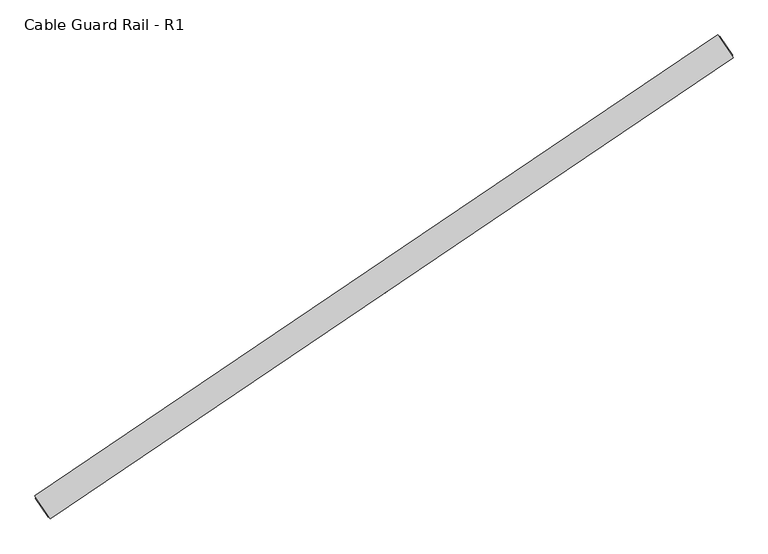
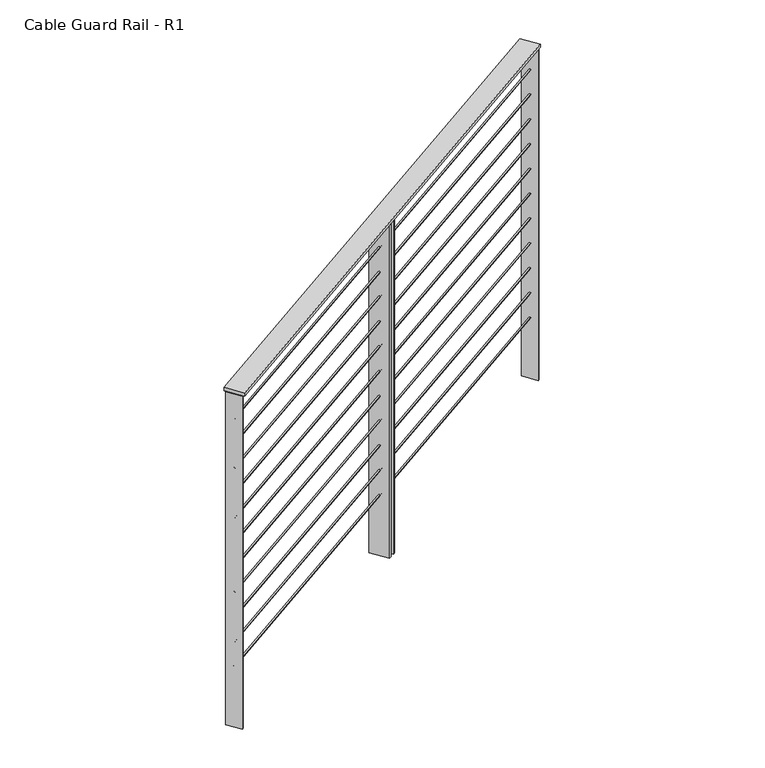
"""IFC4 building model written with IfcOpenShell, lengths in millimetres: railing geometry, Cable Guard Rail - R1."""

import ifcopenshell
import ifcopenshell.guid

model = None  # the IFC model being written
_history = None  # IfcOwnerHistory: only IFC2X3 demands one
_inside = {}  # id of a spatial element -> (the spatial element, [elements in it])
_under = {}  # id of a project, library or spatial element -> (it, [spatial elements below it])
_declared = {}  # id of a project -> (the project, [libraries it declares])
_typed = {}  # id of a type object -> (the type object, [elements of that type])
_made_of = {}  # id of a material, layer set ... -> (it, [elements and type objects made of it])


def new_model(schema):
    """Start an empty IFC model of exactly this schema.

    Asked for "IFC4X3", IfcOpenShell would pick the latest addendum, in which some entities
    have other attributes; the version numbers below select the first issue.
    IFC2X3 requires an IfcOwnerHistory on every rooted entity: one is made here for all.
    """
    global model, _history
    if schema == "IFC4X3":
        model = ifcopenshell.file(schema_version=(4, 3, 0, 0))
    else:
        model = ifcopenshell.file(schema=schema)
    _inside.clear()
    _under.clear()
    _declared.clear()
    _typed.clear()
    _made_of.clear()
    _history = None
    if model.schema == "IFC2X3":
        org = make("IfcOrganization", Name="unknown")
        user = make(
            "IfcPersonAndOrganization",
            ThePerson=make("IfcPerson", FamilyName="unknown"),
            TheOrganization=org,
        )
        app = make(
            "IfcApplication",
            ApplicationDeveloper=org,
            Version="unknown",
            ApplicationFullName="unknown",
            ApplicationIdentifier="unknown",
        )
        _history = make(
            "IfcOwnerHistory",
            OwningUser=user,
            OwningApplication=app,
            ChangeAction="ADDED",
            CreationDate=0,
        )
    return model


def make(cls, **values):
    """One entity of the class cls with the attributes given. An attribute that is None is left unset."""
    return model.create_entity(
        cls, **{name: value for name, value in values.items() if value is not None}
    )


def rooted(cls, **values):
    """An entity with a GlobalId (a new one), such as an element, a storey or a relation."""
    return make(cls, GlobalId=ifcopenshell.guid.new(), OwnerHistory=_history, **values)


def si_unit(unit_type, name, prefix=None):
    """IfcSIUnit, for example si_unit("LENGTHUNIT", "METRE", prefix="MILLI")."""
    return make("IfcSIUnit", UnitType=unit_type, Prefix=prefix, Name=name)


def assignment(units):
    """IfcUnitAssignment: the units of a project."""
    return None if units is None else make("IfcUnitAssignment", Units=units)


def point(xyz):
    """IfcCartesianPoint."""
    return None if xyz is None else make("IfcCartesianPoint", Coordinates=xyz)


def direction(xyz):
    """IfcDirection."""
    return None if xyz is None else make("IfcDirection", DirectionRatios=xyz)


def frame(location, z_axis=None, x_axis=None):
    """IfcAxis2Placement3D, a coordinate frame: its origin and axes. An axis left out is left unset."""
    return make(
        "IfcAxis2Placement3D",
        Location=point(location),
        Axis=direction(z_axis),
        RefDirection=direction(x_axis),
    )


def frame_2d(location, x_axis=None):
    """IfcAxis2Placement2D, a coordinate frame in the plane: its origin and x axis."""
    return make(
        "IfcAxis2Placement2D", Location=point(location), RefDirection=direction(x_axis)
    )


def origin():
    """The frame at (0, 0, 0) with its axes left unset."""
    return frame((0.0, 0.0, 0.0))


def origin_2d():
    """The frame at (0, 0) in the plane with its x axis left unset."""
    return frame_2d((0.0, 0.0))


def place(relative_to, where):
    """IfcLocalPlacement: puts the frame where relative to a parent placement (None: the world)."""
    return make(
        "IfcLocalPlacement", PlacementRelTo=relative_to, RelativePlacement=where
    )


def context(
    kind, dimensions, precision=None, world=None, true_north=None, identifier=None
):
    """IfcGeometricRepresentationContext, for example the 3D "Model" context."""
    return make(
        "IfcGeometricRepresentationContext",
        ContextIdentifier=identifier,
        ContextType=kind,
        CoordinateSpaceDimension=dimensions,
        Precision=precision,
        WorldCoordinateSystem=world,
        TrueNorth=true_north,
    )


def project(units=None, contexts=None):
    """IfcProject with its units and contexts."""
    return rooted(
        "IfcProject",
        Name="project",
        RepresentationContexts=contexts,
        UnitsInContext=assignment(units),
    )


def spatial(cls, under=None, at=None, **own):
    """A site, building, storey or space (cls), placed at a placement, below another one or the project."""
    s = rooted(cls, ObjectPlacement=at, **own)
    if under is not None:
        _under.setdefault(under.id(), (under, []))[1].append(s)
    return s


def polyline(points):
    """IfcPolyline through the points."""
    return make("IfcPolyline", Points=[point(p) for p in points])


def circle_curve(where, radius):
    """IfcCircle in the frame where."""
    return make("IfcCircle", Position=where, Radius=radius)


def trimmed(basis, trim1, trim2, sense, master):
    """IfcTrimmedCurve: the piece of a basis curve between two trims."""
    return make(
        "IfcTrimmedCurve",
        BasisCurve=basis,
        Trim1=trim1,
        Trim2=trim2,
        SenseAgreement=sense,
        MasterRepresentation=master,
    )


def segment(curve, same_sense, transition):
    """IfcCompositeCurveSegment."""
    return make(
        "IfcCompositeCurveSegment",
        Transition=transition,
        SameSense=same_sense,
        ParentCurve=curve,
    )


def composite_curve(segments, self_intersect=None):
    """IfcCompositeCurve: segments joined end to end."""
    return make("IfcCompositeCurve", Segments=segments, SelfIntersect=self_intersect)


def outline(outer, holes=None, kind="AREA"):
    """IfcArbitraryClosedProfileDef: a profile drawn as a closed curve; with holes, ...WithVoids."""
    if holes is None:
        return make("IfcArbitraryClosedProfileDef", ProfileType=kind, OuterCurve=outer)
    return make(
        "IfcArbitraryProfileDefWithVoids",
        ProfileType=kind,
        OuterCurve=outer,
        InnerCurves=holes,
    )


def extrude(swept, where, along, depth):
    """IfcExtrudedAreaSolid: the profile swept, set in the frame where, extruded along a direction by depth."""
    return make(
        "IfcExtrudedAreaSolid",
        SweptArea=swept,
        Position=where,
        ExtrudedDirection=direction(along),
        Depth=depth,
    )


def shape(context_of_items, identifier, shape_type, items):
    """IfcShapeRepresentation: the items that make up one representation, for example the "Body"."""
    return make(
        "IfcShapeRepresentation",
        ContextOfItems=context_of_items,
        RepresentationIdentifier=identifier,
        RepresentationType=shape_type,
        Items=items,
    )


def source(mapping_origin, context_of_items, identifier, shape_type, items):
    """IfcRepresentationMap: a shape defined once, which mapped items show again and again."""
    return make(
        "IfcRepresentationMap",
        MappingOrigin=mapping_origin,
        MappedRepresentation=shape(context_of_items, identifier, shape_type, items),
    )


def transform(
    local_origin,
    x_axis=None,
    y_axis=None,
    z_axis=None,
    scale=None,
    scale2=None,
    scale3=None,
    uniform=True,
):
    """IfcCartesianTransformationOperator3D, or its non-uniform kind. x_axis, y_axis, z_axis: its Axis1, 2, 3."""
    if uniform:
        return make(
            "IfcCartesianTransformationOperator3D",
            Axis1=direction(x_axis),
            Axis2=direction(y_axis),
            LocalOrigin=point(local_origin),
            Scale=scale,
            Axis3=direction(z_axis),
        )
    return make(
        "IfcCartesianTransformationOperator3DnonUniform",
        Axis1=direction(x_axis),
        Axis2=direction(y_axis),
        LocalOrigin=point(local_origin),
        Scale=scale,
        Axis3=direction(z_axis),
        Scale2=scale2,
        Scale3=scale3,
    )


def mapped(mapping_source, mapping_target):
    """IfcMappedItem: shows the shape of a source again, moved by a transform."""
    return make(
        "IfcMappedItem", MappingSource=mapping_source, MappingTarget=mapping_target
    )


def made_of(thing, what):
    """Note that an element or type object is made of a material, layer set ...; save() writes the relation."""
    if what is not None:
        _made_of.setdefault(what.id(), (what, []))[1].append(thing)
    return thing


def element(
    cls,
    number,
    at=None,
    inside=None,
    cuts=None,
    type_object=None,
    material=None,
    context=None,
    identifier="Body",
    shape_type=None,
    held_by="IfcProductDefinitionShape",
    body=None,
    shapes=None,
    **own,
):
    """One element of the class cls, such as IfcWall. Its Tag is "e" and its number.

    at: its placement. inside: the storey or other place that contains it. cuts: it is an
    opening in that element (IfcRelVoidsElement). A single representation is given by context,
    identifier, shape_type and body (its items); several are given by shapes. held_by: the class
    of the entity that holds the representations. save() writes the other relations.
    """
    e = rooted(cls, Tag="e%d" % number, ObjectPlacement=at, **own)
    if body is not None:
        shapes = [shape(context, identifier, shape_type, body)]
    if shapes is not None:
        e.Representation = make(held_by, Representations=shapes)
    if inside is not None:
        _inside.setdefault(inside.id(), (inside, []))[1].append(e)
    if cuts is not None:
        rooted(
            "IfcRelVoidsElement", RelatingBuildingElement=cuts, RelatedOpeningElement=e
        )
    if type_object is not None:
        _typed.setdefault(type_object.id(), (type_object, []))[1].append(e)
    return made_of(e, material)


def aggregate(whole, parts):
    """IfcRelAggregates: a whole, such as a stair, and the parts it consists of."""
    return rooted("IfcRelAggregates", RelatingObject=whole, RelatedObjects=parts)


def save(model, path):
    """Write the relations noted so far, then the file.

    IfcRelAggregates (storeys below a building ...), IfcRelContainedInSpatialStructure (elements
    in a storey), IfcRelDefinesByType, IfcRelAssociatesMaterial and IfcRelDeclares: one each for
    every whole, place, type object, material and project.
    """
    for whole, parts in _under.values():
        aggregate(whole, parts)
    for where, things in _inside.values():
        rooted(
            "IfcRelContainedInSpatialStructure",
            RelatedElements=things,
            RelatingStructure=where,
        )
    for kind, things in _typed.values():
        rooted("IfcRelDefinesByType", RelatedObjects=things, RelatingType=kind)
    for what, things in _made_of.values():
        rooted("IfcRelAssociatesMaterial", RelatedObjects=things, RelatingMaterial=what)
    for by, libraries in _declared.values():
        rooted("IfcRelDeclares", RelatingContext=by, RelatedDefinitions=libraries)
    model.write(path)


def cable_guard_rail_r1_8ac2c322(model_context):
    return source(origin(), model_context, "Body", "SweptSolid", [
        extrude(outline(polyline([(47487.5436777, 175241.9849282), (47444.8761558, 175305.1190914), (49326.5168353, 176576.7752089), (49369.1843573, 176513.6410456), (47487.5436777, 175241.9849282)])), frame((0.0, 0.0, 294906.7), z_axis=(0.0, 0.0, 1.0), x_axis=(1.0, 0.0, 0.0)), (0.0, 0.0, 1.0), 12.7),
        extrude(outline(composite_curve([segment(trimmed(circle_curve(origin_2d(), 3.175), [point((-3.175, 0.0))], [point((3.175, 0.0))], False, "CARTESIAN"), True, "CONTINUOUS"), segment(trimmed(circle_curve(origin_2d(), 3.175), [point((3.175, 0.0))], [point((-3.175, 0.0))], False, "CARTESIAN"), True, "CONTINUOUS")], self_intersect=False)), frame((47466.2099168, 175273.5520098, 294805.1), z_axis=(0.828532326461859, 0.5599412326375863, 0.0), x_axis=(0.5599412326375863, -0.828532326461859, 0.0)), (0.0, 0.0, 1.0), 2271.0528237),
        extrude(outline(composite_curve([segment(trimmed(circle_curve(origin_2d(), 3.175), [point((-3.175, 0.0))], [point((3.175, 0.0))], False, "CARTESIAN"), True, "CONTINUOUS"), segment(trimmed(circle_curve(origin_2d(), 3.175), [point((3.175, 0.0))], [point((-3.175, 0.0))], False, "CARTESIAN"), True, "CONTINUOUS")], self_intersect=False)), frame((47466.2099168, 175273.5520098, 294703.5), z_axis=(0.828532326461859, 0.5599412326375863, 0.0), x_axis=(0.5599412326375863, -0.828532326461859, 0.0)), (0.0, 0.0, 1.0), 2271.0528237),
        extrude(outline(composite_curve([segment(trimmed(circle_curve(origin_2d(), 3.175), [point((-3.175, 0.0))], [point((3.175, 0.0))], False, "CARTESIAN"), True, "CONTINUOUS"), segment(trimmed(circle_curve(origin_2d(), 3.175), [point((3.175, 0.0))], [point((-3.175, 0.0))], False, "CARTESIAN"), True, "CONTINUOUS")], self_intersect=False)), frame((47466.2099168, 175273.5520098, 294601.9), z_axis=(0.828532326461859, 0.5599412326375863, 0.0), x_axis=(0.5599412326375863, -0.828532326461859, 0.0)), (0.0, 0.0, 1.0), 2271.0528237),
        extrude(outline(composite_curve([segment(trimmed(circle_curve(origin_2d(), 3.175), [point((-3.175, 0.0))], [point((3.175, 0.0))], False, "CARTESIAN"), True, "CONTINUOUS"), segment(trimmed(circle_curve(origin_2d(), 3.175), [point((3.175, 0.0))], [point((-3.175, 0.0))], False, "CARTESIAN"), True, "CONTINUOUS")], self_intersect=False)), frame((47466.2099168, 175273.5520098, 294500.3), z_axis=(0.828532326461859, 0.5599412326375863, 0.0), x_axis=(0.5599412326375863, -0.828532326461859, 0.0)), (0.0, 0.0, 1.0), 2271.0528237),
        extrude(outline(composite_curve([segment(trimmed(circle_curve(origin_2d(), 3.175), [point((-3.175, 0.0))], [point((3.175, 0.0))], False, "CARTESIAN"), True, "CONTINUOUS"), segment(trimmed(circle_curve(origin_2d(), 3.175), [point((3.175, 0.0))], [point((-3.175, 0.0))], False, "CARTESIAN"), True, "CONTINUOUS")], self_intersect=False)), frame((47466.2099168, 175273.5520098, 294398.7), z_axis=(0.828532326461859, 0.5599412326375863, 0.0), x_axis=(0.5599412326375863, -0.828532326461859, 0.0)), (0.0, 0.0, 1.0), 2271.0528237),
        extrude(outline(composite_curve([segment(trimmed(circle_curve(origin_2d(), 3.175), [point((-3.175, 0.0))], [point((3.175, 0.0))], False, "CARTESIAN"), True, "CONTINUOUS"), segment(trimmed(circle_curve(origin_2d(), 3.175), [point((3.175, 0.0))], [point((-3.175, 0.0))], False, "CARTESIAN"), True, "CONTINUOUS")], self_intersect=False)), frame((47466.2099168, 175273.5520098, 294297.1), z_axis=(0.828532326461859, 0.5599412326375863, 0.0), x_axis=(0.5599412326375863, -0.828532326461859, 0.0)), (0.0, 0.0, 1.0), 2271.0528237),
        extrude(outline(composite_curve([segment(trimmed(circle_curve(origin_2d(), 3.175), [point((-3.175, 0.0))], [point((3.175, 0.0))], False, "CARTESIAN"), True, "CONTINUOUS"), segment(trimmed(circle_curve(origin_2d(), 3.175), [point((3.175, 0.0))], [point((-3.175, 0.0))], False, "CARTESIAN"), True, "CONTINUOUS")], self_intersect=False)), frame((47466.2099168, 175273.5520098, 294195.5), z_axis=(0.828532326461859, 0.5599412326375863, 0.0), x_axis=(0.5599412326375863, -0.828532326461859, 0.0)), (0.0, 0.0, 1.0), 2271.0528237),
        extrude(outline(composite_curve([segment(trimmed(circle_curve(origin_2d(), 3.175), [point((-3.175, 0.0))], [point((3.175, 0.0))], False, "CARTESIAN"), True, "CONTINUOUS"), segment(trimmed(circle_curve(origin_2d(), 3.175), [point((3.175, 0.0))], [point((-3.175, 0.0))], False, "CARTESIAN"), True, "CONTINUOUS")], self_intersect=False)), frame((47466.2099168, 175273.5520098, 294093.9), z_axis=(0.828532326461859, 0.5599412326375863, 0.0), x_axis=(0.5599412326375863, -0.828532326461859, 0.0)), (0.0, 0.0, 1.0), 2271.0528237),
        extrude(outline(composite_curve([segment(trimmed(circle_curve(origin_2d(), 3.175), [point((-3.175, 0.0))], [point((3.175, 0.0))], False, "CARTESIAN"), True, "CONTINUOUS"), segment(trimmed(circle_curve(origin_2d(), 3.175), [point((3.175, 0.0))], [point((-3.175, 0.0))], False, "CARTESIAN"), True, "CONTINUOUS")], self_intersect=False)), frame((47466.2099168, 175273.5520098, 293992.3), z_axis=(0.828532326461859, 0.5599412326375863, 0.0), x_axis=(0.5599412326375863, -0.828532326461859, 0.0)), (0.0, 0.0, 1.0), 2271.0528237),
        extrude(outline(composite_curve([segment(trimmed(circle_curve(origin_2d(), 3.175), [point((-3.175, 0.0))], [point((3.175, 0.0))], False, "CARTESIAN"), True, "CONTINUOUS"), segment(trimmed(circle_curve(origin_2d(), 3.175), [point((3.175, 0.0))], [point((-3.175, 0.0))], False, "CARTESIAN"), True, "CONTINUOUS")], self_intersect=False)), frame((47466.2099168, 175273.5520098, 293890.7), z_axis=(0.828532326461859, 0.5599412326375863, 0.0), x_axis=(0.5599412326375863, -0.828532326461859, 0.0)), (0.0, 0.0, 1.0), 2271.0528237),
        extrude(outline(composite_curve([segment(trimmed(circle_curve(origin_2d(), 3.175), [point((-3.175, 0.0))], [point((3.175, 0.0))], False, "CARTESIAN"), True, "CONTINUOUS"), segment(trimmed(circle_curve(origin_2d(), 3.175), [point((3.175, 0.0))], [point((-3.175, 0.0))], False, "CARTESIAN"), True, "CONTINUOUS")], self_intersect=False)), frame((47466.2099168, 175273.5520098, 293789.1), z_axis=(0.828532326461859, 0.5599412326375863, 0.0), x_axis=(0.5599412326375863, -0.828532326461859, 0.0)), (0.0, 0.0, 1.0), 2271.0528237),
        extrude(outline(polyline([(48367.2823646, 175928.5024563), (48375.174135, 175933.8358965), (48417.8416569, 175870.7017332), (48409.9498865, 175865.368293), (48367.2823646, 175928.5024563)])), frame((0.0, 0.0, 293541.45), z_axis=(0.0, 0.0, 1.0), x_axis=(1.0, 0.0, 0.0)), (0.0, 0.0, 1.0), 1365.25),
        extrude(outline(polyline([(48390.9576758, 175944.502777), (48398.8094817, 175949.8092083), (48441.4770036, 175886.675045), (48433.6251978, 175881.3686137), (48390.9576758, 175944.502777)])), frame((0.0, 0.0, 293541.45), z_axis=(0.0, 0.0, 1.0), x_axis=(1.0, 0.0, 0.0)), (0.0, 0.0, 1.0), 1365.25),
        extrude(outline(polyline([(49327.441872, 176569.7362152), (49332.7030523, 176573.2918421), (49368.2593206, 176520.6800393), (49362.9981403, 176517.1244125), (49327.441872, 176569.7362152)])), frame((0.0, 0.0, 293541.45), z_axis=(0.0, 0.0, 1.0), x_axis=(1.0, 0.0, 0.0)), (0.0, 0.0, 1.0), 1365.25),
        extrude(outline(polyline([(47445.8011925, 175298.0800977), (47451.0623728, 175301.6357246), (47486.618641, 175249.0239218), (47481.3574608, 175245.468295), (47445.8011925, 175298.0800977)])), frame((0.0, 0.0, 293541.45), z_axis=(0.0, 0.0, 1.0), x_axis=(1.0, 0.0, 0.0)), (0.0, 0.0, 1.0), 1365.25),
    ])


if __name__ == "__main__":
    model = new_model("IFC4")
    model_context = context("Model", 3, world=origin())
    ifc_project = project(units=[si_unit("LENGTHUNIT", "METRE", prefix="MILLI")], contexts=[model_context])
    site = spatial("IfcSite", under=ifc_project)
    building = spatial("IfcBuilding", under=site)
    placement = place(None, origin())
    cable_guard_rail_r1_shape = cable_guard_rail_r1_8ac2c322(model_context)
    element("IfcRailing", 1, ObjectType="Cable Guard Rail - R1", at=placement, inside=building, context=model_context, shape_type="MappedRepresentation", body=[
        mapped(cable_guard_rail_r1_shape, transform((0.0, 0.0, 0.0), x_axis=(1.0, 0.0, 0.0), y_axis=(0.0, 1.0, 0.0), z_axis=(0.0, 0.0, 1.0))),
    ])
    save(model, "model.ifc")
